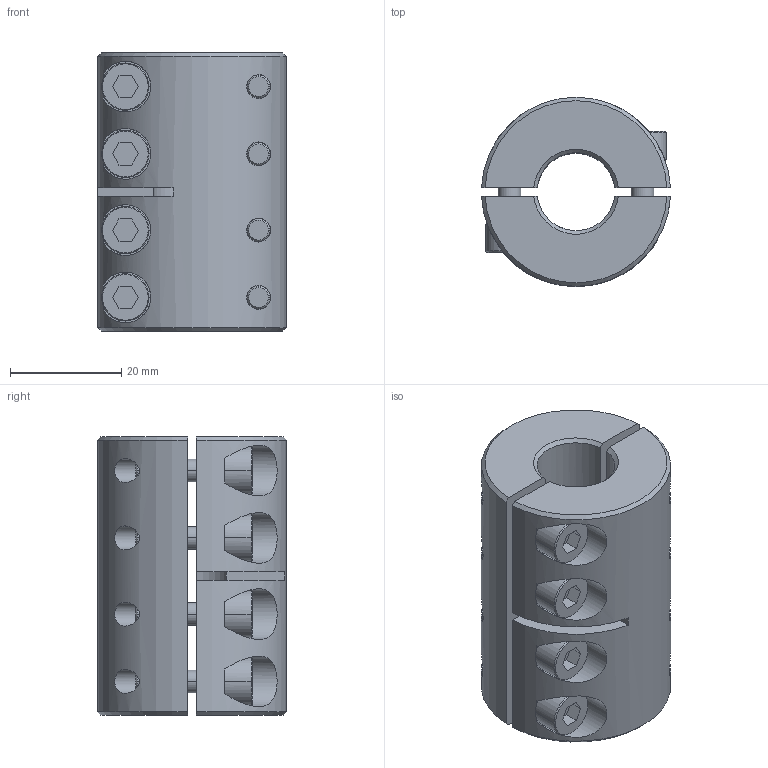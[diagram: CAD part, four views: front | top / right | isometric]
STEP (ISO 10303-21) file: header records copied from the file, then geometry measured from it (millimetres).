
FILE_DESCRIPTION((''),'2;1');
FILE_NAME('MSPX-14-14-F','2016-09-08T',('SYSTEM'),(''),'PRO/ENGINEER BY PARAMETRIC TECHNOLOGY CORPORATION, 2015110','PRO/ENGINEER BY PARAMETRIC TECHNOLOGY CORPORATION, 2015110','');
FILE_SCHEMA(('AUTOMOTIVE_DESIGN { 1 0 10303 214 1 1 1 1 }'));
Length unit declared in the file: millimetre
Products named in the file (1): MSPX-14-14-F
Bounding box: 33.96 x 34 x 50 mm (x, y, z)
Volume: 34042.2 mm3; surface area: 16550.9 mm2
Topology: 2 solids, 2 shells, 228 faces, 528 edges, 336 vertices
Faces by surface type: plane 112, cylinder 76, cone 40
Entity records: 8615 total; most frequent: CARTESIAN_POINT 1644, DIRECTION 1136, ORIENTED_EDGE 1056, EDGE_CURVE 528, AXIS2_PLACEMENT_3D 420, VERTEX_POINT 336, VECTOR 296, LINE 296
